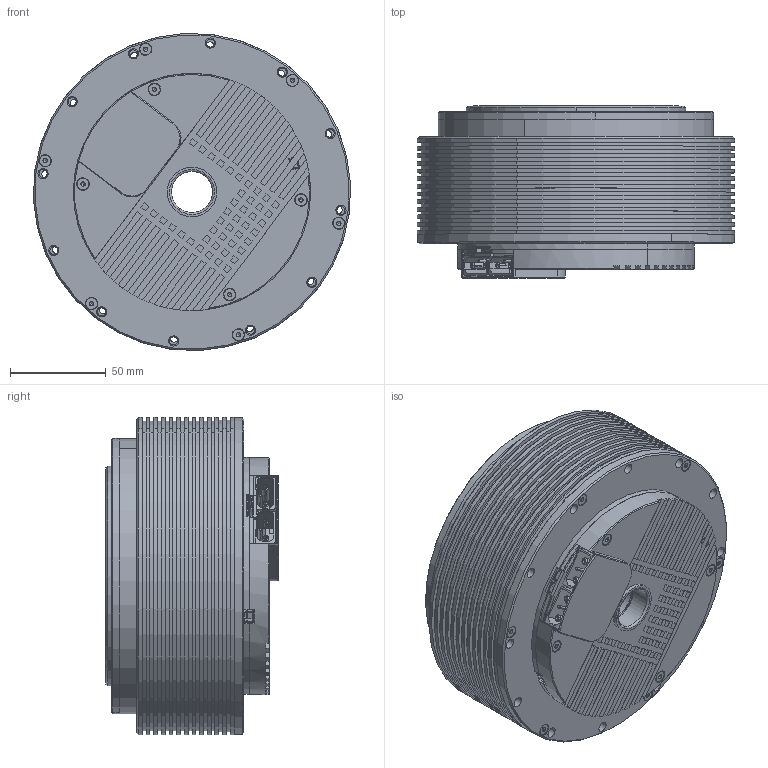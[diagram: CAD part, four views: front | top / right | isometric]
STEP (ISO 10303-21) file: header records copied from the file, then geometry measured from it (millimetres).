
FILE_DESCRIPTION (( 'STEP AP203' ), '1' );
FILE_NAME ('X15-P20-450.STEP', '2025-09-13T05:46:57', ( '微软用户' ), ( '微软中国' ), 'SwSTEP 2.0', 'SolidWorks 2020', '' );
FILE_SCHEMA (( 'CONFIG_CONTROL_DESIGN' ));
Products named in the file (1): X15-P20-450
Bounding box: 165.9 x 90 x 165.9 mm (x, y, z)
Surface area: 165100 mm2 (no closed solid volume)
Topology: 0 solids, 77 shells, 1115 faces, 4235 edges, 3168 vertices
Faces by surface type: plane 632, cylinder 271, cone 206, torus 6
Entity records: 46138 total; most frequent: CARTESIAN_POINT 10956, DIRECTION 7215, ORIENTED_EDGE 6444, EDGE_CURVE 4191, VERTEX_POINT 3168, AXIS2_PLACEMENT_3D 2463, LINE 2289, VECTOR 2289
